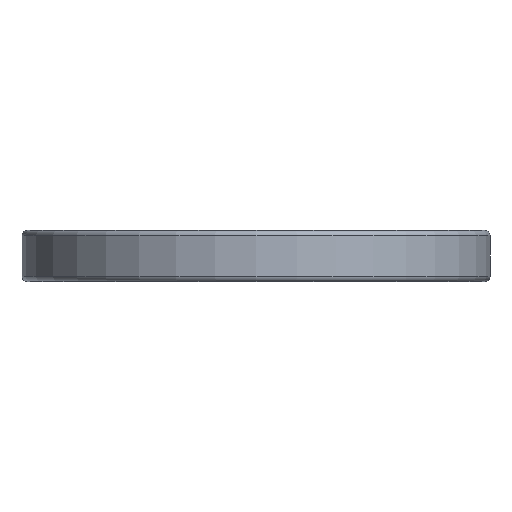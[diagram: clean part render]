
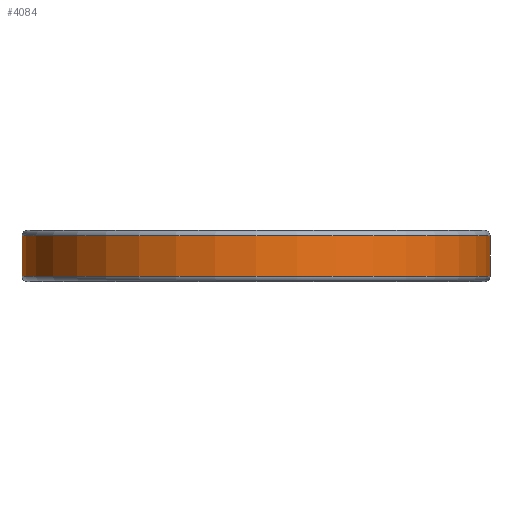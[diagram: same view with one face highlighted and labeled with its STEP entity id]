
A CAD part, front view. The second image highlights one B-rep face of the part: STEP entity #4084.
In plain terms, the highlighted cylindrical face has radius 137.5 mm (diameter 275 mm), a full revolution.
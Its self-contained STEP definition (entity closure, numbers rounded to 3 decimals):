
#4057=CARTESIAN_POINT('',(0.0,0.0,1.5));
#4058=DIRECTION('',(0.0,0.0,-1.0));
#4059=DIRECTION('',(-1.0,0.0,0.0));
#4060=AXIS2_PLACEMENT_3D('',#4057,#4058,#4059);
#4061=CYLINDRICAL_SURFACE('',#4060,137.5);
#4062=CARTESIAN_POINT('',(137.5,0.0,-27.0));
#4063=VERTEX_POINT('',#4062);
#4064=CARTESIAN_POINT('',(0.0,0.0,-27.0));
#4065=DIRECTION('',(0.0,0.0,1.0));
#4066=DIRECTION('',(1.0,0.0,0.0));
#4067=AXIS2_PLACEMENT_3D('',#4064,#4065,#4066);
#4068=CIRCLE('',#4067,137.5);
#4069=EDGE_CURVE('',#4063,#4063,#4068,.T.);
#4070=ORIENTED_EDGE('',*,*,#4069,.T.);
#4071=EDGE_LOOP('',(#4070));
#4072=FACE_BOUND('',#4071,.T.);
#4073=CARTESIAN_POINT('',(137.5,0.0,-3.0));
#4074=VERTEX_POINT('',#4073);
#4075=CARTESIAN_POINT('',(0.0,0.0,-3.0));
#4076=DIRECTION('',(0.0,0.0,1.0));
#4077=DIRECTION('',(1.0,0.0,0.0));
#4078=AXIS2_PLACEMENT_3D('',#4075,#4076,#4077);
#4079=CIRCLE('',#4078,137.5);
#4080=EDGE_CURVE('',#4074,#4074,#4079,.F.);
#4081=ORIENTED_EDGE('',*,*,#4080,.T.);
#4082=EDGE_LOOP('',(#4081));
#4083=FACE_BOUND('',#4082,.T.);
#4084=ADVANCED_FACE('',(#4072,#4083),#4061,.T.);
